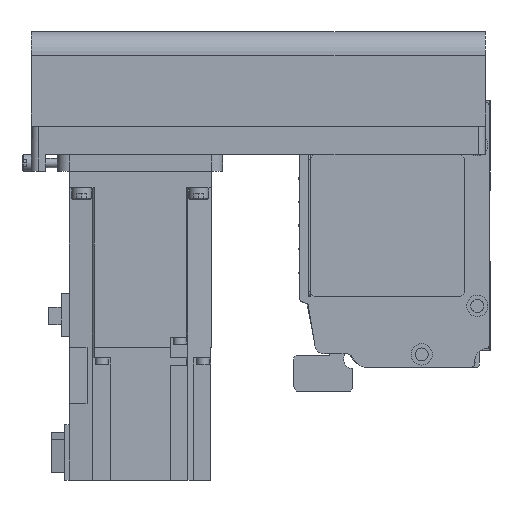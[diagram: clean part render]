
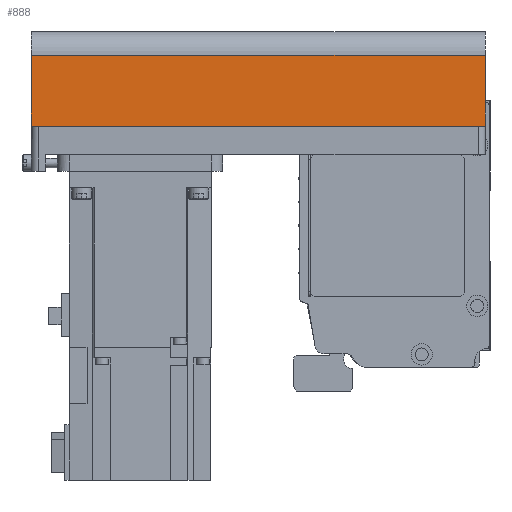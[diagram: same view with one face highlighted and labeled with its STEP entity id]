
A CAD part, left-side view. The second image highlights one B-rep face of the part: STEP entity #888.
In plain terms, the highlighted planar face has unit normal (-1, 0, 0) as drawn and (0, 1, 0) by its records, which use the part's own axes.
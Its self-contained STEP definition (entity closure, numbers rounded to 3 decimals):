
#888 = ADVANCED_FACE( '', ( #2376 ), #2377, .T. );
#2376 = FACE_OUTER_BOUND( '', #4696, .T. );
#2377 = PLANE( '', #4697 );
#4696 = EDGE_LOOP( '', ( #7063, #7064, #7065, #7066 ) );
#4697 = AXIS2_PLACEMENT_3D( '', #7067, #7068, #7069 );
#7063 = ORIENTED_EDGE( '', *, *, #13321, .F. );
#7064 = ORIENTED_EDGE( '', *, *, #13322, .F. );
#7065 = ORIENTED_EDGE( '', *, *, #13323, .T. );
#7066 = ORIENTED_EDGE( '', *, *, #13324, .T. );
#7067 = CARTESIAN_POINT( '', ( -192., 40., -42. ) );
#7068 = DIRECTION( '', ( 0., 1., 0. ) );
#7069 = DIRECTION( '', ( 0., 0., 1. ) );
#13321 = EDGE_CURVE( '', #15811, #15812, #15813, .T. );
#13322 = EDGE_CURVE( '', #15814, #15811, #15815, .T. );
#13323 = EDGE_CURVE( '', #15814, #15816, #15817, .T. );
#13324 = EDGE_CURVE( '', #15816, #15812, #15818, .T. );
#15811 = VERTEX_POINT( '', #19464 );
#15812 = VERTEX_POINT( '', #19465 );
#15813 = LINE( '', #19466, #19467 );
#15814 = VERTEX_POINT( '', #19468 );
#15815 = LINE( '', #19469, #19470 );
#15816 = VERTEX_POINT( '', #19471 );
#15817 = LINE( '', #19472, #19473 );
#15818 = LINE( '', #19474, #19475 );
#19464 = CARTESIAN_POINT( '', ( 0., 40., -42. ) );
#19465 = CARTESIAN_POINT( '', ( 0., 40., -12.1 ) );
#19466 = CARTESIAN_POINT( '', ( 0., 40., -42. ) );
#19467 = VECTOR( '', #24228, 1000. );
#19468 = CARTESIAN_POINT( '', ( -192., 40., -42. ) );
#19469 = CARTESIAN_POINT( '', ( -192., 40., -42. ) );
#19470 = VECTOR( '', #24229, 1000. );
#19471 = CARTESIAN_POINT( '', ( -192., 40., -12.1 ) );
#19472 = CARTESIAN_POINT( '', ( -192., 40., -42. ) );
#19473 = VECTOR( '', #24230, 1000. );
#19474 = CARTESIAN_POINT( '', ( -192., 40., -12.1 ) );
#19475 = VECTOR( '', #24231, 1000. );
#24228 = DIRECTION( '', ( 0., 0., 1. ) );
#24229 = DIRECTION( '', ( 1., 0., 0. ) );
#24230 = DIRECTION( '', ( 0., 0., 1. ) );
#24231 = DIRECTION( '', ( 1., 0., 0. ) );
